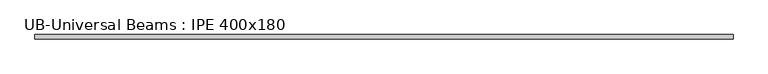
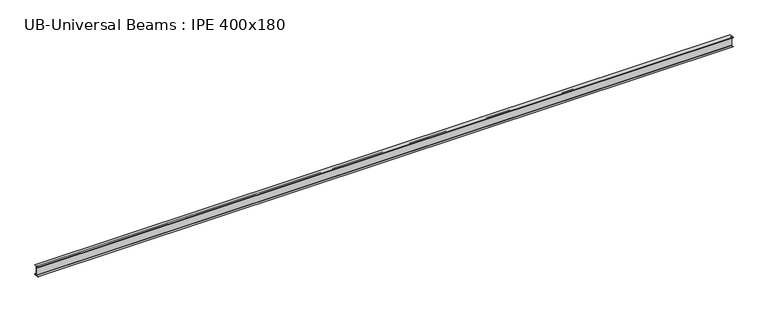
"""IFC4 building model written with IfcOpenShell, lengths in millimetres: beam geometry, UB-Universal Beams : IPE 400x180."""

from ifc_helpers import new_model, si_unit, point, frame, frame_2d, origin, place, context, project, spatial, polyline, circle_curve, trimmed, segment, composite_curve, outline, extrude, source, transform, mapped, element, save


def ub_universal_beams_ipe_400x180_c99dd9ee(model_context):
    return source(origin(), model_context, "Body", "SweptSolid", [
        extrude(outline(composite_curve([segment(polyline([(-90.0, -189.8), (-11.9, -189.8)]), True, "CONTINUOUS"), segment(trimmed(circle_curve(frame_2d((-11.9, -180.9)), 8.9), [point((-11.9, -189.8))], [point((-3.0, -180.9))], True, "CARTESIAN"), True, "CONTINUOUS"), segment(polyline([(-3.0, -180.9), (-3.0, 180.9)]), True, "CONTINUOUS"), segment(trimmed(circle_curve(frame_2d((-11.9, 180.9)), 8.9), [point((-3.0, 180.9))], [point((-11.9, 189.8))], True, "CARTESIAN"), True, "CONTINUOUS"), segment(polyline([(-11.9, 189.8), (-90.0, 189.8), (-90.0, 200.0), (90.0, 200.0), (90.0, 189.8), (11.9, 189.8)]), True, "CONTINUOUS"), segment(trimmed(circle_curve(frame_2d((11.9, 180.9)), 8.9), [point((11.9, 189.8))], [point((3.0, 180.9))], True, "CARTESIAN"), True, "CONTINUOUS"), segment(polyline([(3.0, 180.9), (3.0, -180.9)]), True, "CONTINUOUS"), segment(trimmed(circle_curve(frame_2d((11.9, -180.9)), 8.9), [point((3.0, -180.9))], [point((11.9, -189.8))], True, "CARTESIAN"), True, "CONTINUOUS"), segment(polyline([(11.9, -189.8), (90.0, -189.8), (90.0, -200.0), (-90.0, -200.0), (-90.0, -189.8)]), True, "CONTINUOUS")], self_intersect=False)), frame((-13827.25, 0.0, 0.0), z_axis=(1.0, 0.0, 0.0), x_axis=(0.0, 1.0, 0.0)), (0.0, 0.0, 1.0), 27814.6),
    ])


if __name__ == "__main__":
    model = new_model("IFC4")
    model_context = context("Model", 3, world=origin())
    ifc_project = project(units=[si_unit("LENGTHUNIT", "METRE", prefix="MILLI")], contexts=[model_context])
    site = spatial("IfcSite", under=ifc_project)
    building = spatial("IfcBuilding", under=site)
    placement = place(None, origin())
    ub_universal_beams_ipe_400x180_shape = ub_universal_beams_ipe_400x180_c99dd9ee(model_context)
    element("IfcBeam", 1, ObjectType="UB-Universal Beams : IPE 400x180", at=placement, inside=building, context=model_context, shape_type="MappedRepresentation", body=[
        mapped(ub_universal_beams_ipe_400x180_shape, transform((0.0, 0.0, 0.0), x_axis=(1.0, 0.0, 0.0), y_axis=(0.0, 1.0, 0.0), z_axis=(0.0, 0.0, 1.0))),
    ])
    save(model, "model.ifc")
